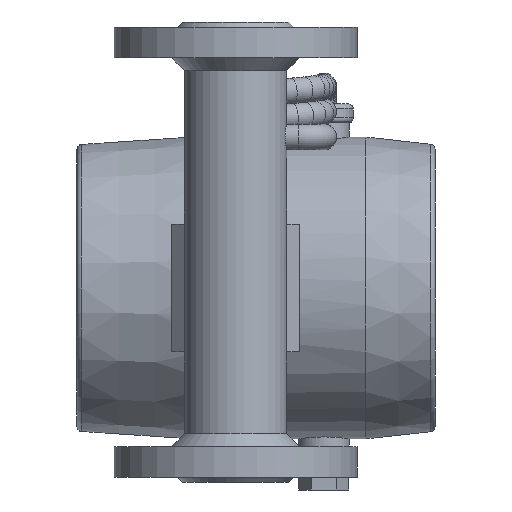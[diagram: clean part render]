
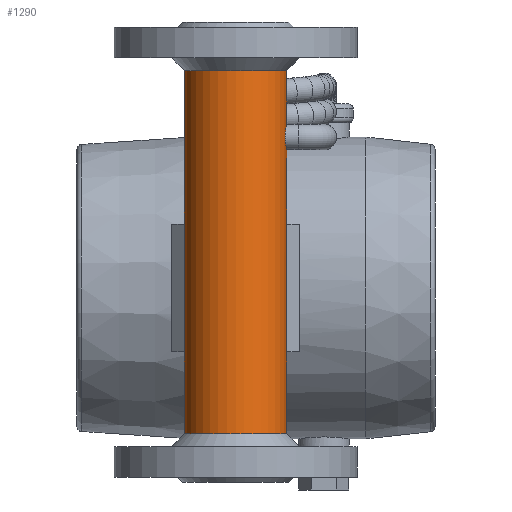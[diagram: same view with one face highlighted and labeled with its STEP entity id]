
A CAD part, front view. The second image highlights one B-rep face of the part: STEP entity #1290.
In plain terms, the highlighted cylindrical face has radius 20 mm (diameter 40 mm), a full revolution.
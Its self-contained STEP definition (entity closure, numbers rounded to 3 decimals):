
#571=CYLINDRICAL_SURFACE('',#3917,20.);
#628=B_SPLINE_CURVE_WITH_KNOTS('',3,(#6606,#6607,#6608,#6609,#6610,#6611,
#6612,#6613,#6614,#6615,#6616,#6617,#6618,#6619,#6620,#6621,#6622,#6623),
 .UNSPECIFIED.,.T.,.F.,(2,2,2,2,2,2,2,2,2,2,2),(-0.125,0.,0.125,0.25,0.375,
0.5,0.625,0.75,0.875,1.,1.125),.UNSPECIFIED.);
#821=FACE_BOUND('',#1729,.T.);
#822=FACE_BOUND('',#1730,.T.);
#823=FACE_BOUND('',#1731,.T.);
#824=FACE_BOUND('',#1732,.T.);
#1063=CIRCLE('',#3913,20.);
#1064=CIRCLE('',#3914,20.);
#1065=CIRCLE('',#3915,20.);
#1066=CIRCLE('',#3916,20.);
#1290=ADVANCED_FACE('',(#821,#822,#823,#824),#571,.T.);
#1729=EDGE_LOOP('',(#2240));
#1730=EDGE_LOOP('',(#2241));
#1731=EDGE_LOOP('',(#2242));
#1732=EDGE_LOOP('',(#2243,#2244,#2245,#2246));
#2240=ORIENTED_EDGE('',*,*,#3347,.T.);
#2241=ORIENTED_EDGE('',*,*,#3348,.T.);
#2242=ORIENTED_EDGE('',*,*,#3349,.T.);
#2243=ORIENTED_EDGE('',*,*,#3350,.F.);
#2244=ORIENTED_EDGE('',*,*,#3351,.F.);
#2245=ORIENTED_EDGE('',*,*,#3352,.F.);
#2246=ORIENTED_EDGE('',*,*,#3353,.F.);
#2981=VERTEX_POINT('',#6624);
#2982=VERTEX_POINT('',#6626);
#2983=VERTEX_POINT('',#6628);
#2984=VERTEX_POINT('',#6630);
#2985=VERTEX_POINT('',#6631);
#2986=VERTEX_POINT('',#6633);
#2987=VERTEX_POINT('',#6635);
#3347=EDGE_CURVE('',#2981,#2981,#628,.T.);
#3348=EDGE_CURVE('',#2982,#2982,#1063,.T.);
#3349=EDGE_CURVE('',#2983,#2983,#1064,.T.);
#3350=EDGE_CURVE('',#2984,#2985,#3701,.T.);
#3351=EDGE_CURVE('',#2986,#2984,#1065,.T.);
#3352=EDGE_CURVE('',#2987,#2986,#3702,.T.);
#3353=EDGE_CURVE('',#2985,#2987,#1066,.T.);
#3701=LINE('',#6629,#3772);
#3702=LINE('',#6634,#3773);
#3772=VECTOR('',#4537,1.);
#3773=VECTOR('',#4540,1.);
#3913=AXIS2_PLACEMENT_3D('',#6625,#4533,#4534);
#3914=AXIS2_PLACEMENT_3D('',#6627,#4535,#4536);
#3915=AXIS2_PLACEMENT_3D('',#6632,#4538,#4539);
#3916=AXIS2_PLACEMENT_3D('',#6636,#4541,#4542);
#3917=AXIS2_PLACEMENT_3D('',#6637,#4543,#4544);
#4533=DIRECTION('',(0.,0.,-1.));
#4534=DIRECTION('',(1.,0.,0.));
#4535=DIRECTION('',(0.,0.,1.));
#4536=DIRECTION('',(-1.,0.,0.));
#4537=DIRECTION('',(0.,0.,1.));
#4538=DIRECTION('',(0.,0.,1.));
#4539=DIRECTION('',(1.,0.,0.));
#4540=DIRECTION('',(0.,0.,-1.));
#4541=DIRECTION('',(0.,0.,-1.));
#4542=DIRECTION('',(-1.,0.,0.));
#4543=DIRECTION('',(0.,0.,-1.));
#4544=DIRECTION('',(-1.,0.,0.));
#6606=CARTESIAN_POINT('',(20.,-1.327,140.));
#6607=CARTESIAN_POINT('',(20.,1.327,140.));
#6608=CARTESIAN_POINT('',(19.85,2.618,139.453));
#6609=CARTESIAN_POINT('',(19.52,4.454,137.616));
#6610=CARTESIAN_POINT('',(19.365,4.999,136.313));
#6611=CARTESIAN_POINT('',(19.365,5.001,133.693));
#6612=CARTESIAN_POINT('',(19.519,4.462,132.391));
#6613=CARTESIAN_POINT('',(19.851,2.61,130.538));
#6614=CARTESIAN_POINT('',(20.,1.31,130.001));
#6615=CARTESIAN_POINT('',(20.,-1.306,129.999));
#6616=CARTESIAN_POINT('',(19.851,-2.61,130.54));
#6617=CARTESIAN_POINT('',(19.52,-4.456,132.383));
#6618=CARTESIAN_POINT('',(19.365,-4.999,133.678));
#6619=CARTESIAN_POINT('',(19.365,-5.001,136.317));
#6620=CARTESIAN_POINT('',(19.52,-4.455,137.615));
#6621=CARTESIAN_POINT('',(19.849,-2.621,139.452));
#6622=CARTESIAN_POINT('',(20.,-1.327,140.));
#6623=CARTESIAN_POINT('',(20.,1.327,140.));
#6624=CARTESIAN_POINT('',(20.,0.,140.));
#6625=CARTESIAN_POINT('',(0.,0.,161.));
#6626=CARTESIAN_POINT('',(20.,0.,161.));
#6627=CARTESIAN_POINT('',(0.,0.,19.));
#6628=CARTESIAN_POINT('',(-20.,0.,19.));
#6629=CARTESIAN_POINT('',(-20.,0.,180.));
#6630=CARTESIAN_POINT('',(-20.,0.,51.));
#6631=CARTESIAN_POINT('',(-20.,0.,101.));
#6632=CARTESIAN_POINT('',(0.,0.,51.));
#6633=CARTESIAN_POINT('',(20.,0.,51.));
#6634=CARTESIAN_POINT('',(20.,0.,180.));
#6635=CARTESIAN_POINT('',(20.,0.,101.));
#6636=CARTESIAN_POINT('',(0.,0.,101.));
#6637=CARTESIAN_POINT('',(0.,0.,180.));
